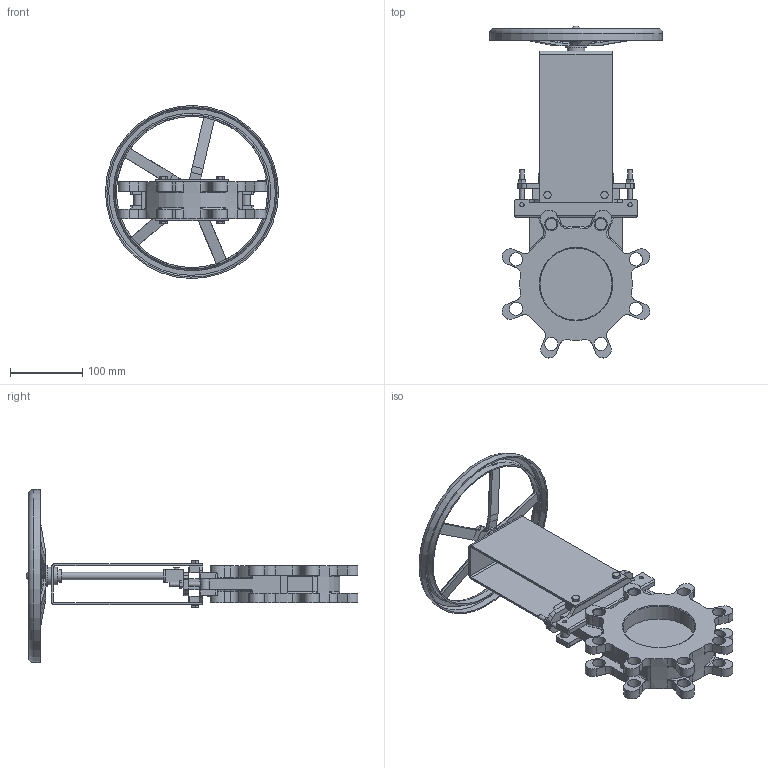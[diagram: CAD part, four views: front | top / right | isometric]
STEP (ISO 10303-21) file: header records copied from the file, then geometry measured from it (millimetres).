
FILE_DESCRIPTION(('STEP AP214'), '1');
FILE_NAME('GVKN1331N-2W-Fb-S Çàäâèæêà øèáåðíàÿ DN.ru Äó100 Ðó10', '', ('UNSPECIFIED'), ('UNSPECIFIED'), 'C3D Converter', 'C3D Toolkit', '');
FILE_SCHEMA(('AUTOMOTIVE_DESIGN { 1 0 10303 214 3 1 1}'));
Length unit declared in the file: millimetre
Products named in the file (1): GVKN1331N-2W-Fb-S
Bounding box: 239.95 x 460.34 x 239.95 mm (x, y, z)
Volume: 1229498.6 mm3; surface area: 362086.6 mm2
Topology: 2 solids, 2 shells, 812 faces, 2091 edges, 1306 vertices
Faces by surface type: plane 367, cylinder 221, bspline 88, cone 72, torus 63, sphere 1
Full cylindrical faces by diameter (mm): 4 x2, 6 x8, 7 x4, 10 x5, 12 x2, 16 x6, 18 x14, 20 x1, 24 x2, 26 x1, 30 x1, 100 x2, 209.593 x1, 213.593 x1, 236 x1, 240 x1
Entity records: 43911 total; most frequent: CARTESIAN_POINT 19807, ORIENTED_EDGE 4040, DIRECTION 3682, EDGE_CURVE 2020, AXIS2_PLACEMENT_3D 1381, VERTEX_POINT 1305, EDGE_LOOP 961, LINE 920
